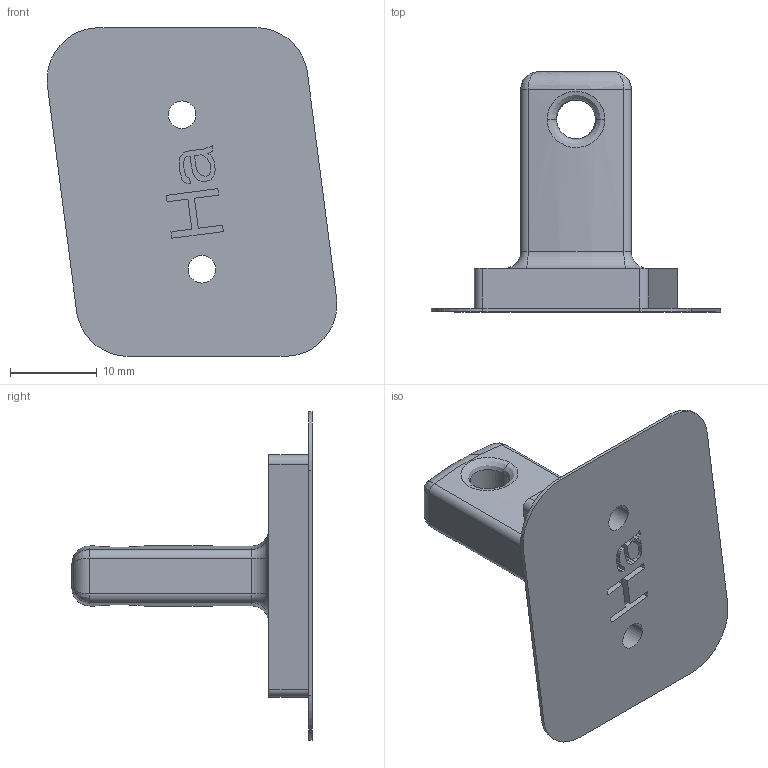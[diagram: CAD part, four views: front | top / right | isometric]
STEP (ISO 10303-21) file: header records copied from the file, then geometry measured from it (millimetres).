
FILE_DESCRIPTION((''),'2;1');
FILE_NAME('0000187322','2024-01-10T08:43:38',('Wyndorps'),(''),'CREO PARAMETRIC BY PTC INC, 2022484','CREO PARAMETRIC BY PTC INC, 2022484','');
FILE_SCHEMA(('CONFIG_CONTROL_DESIGN'));
Length unit declared in the file: millimetre
Products named in the file (1): 0000187322
Bounding box: 33.5 x 27.75 x 38 mm (x, y, z)
Volume: 4694.3 mm3; surface area: 3652.3 mm2
Topology: 1 solids, 1 shells, 125 faces, 326 edges, 208 vertices
Faces by surface type: plane 81, cylinder 24, bspline 8, torus 8, cone 4
Entity records: 4834 total; most frequent: CARTESIAN_POINT 1731, ORIENTED_EDGE 652, DIRECTION 604, EDGE_CURVE 326, VECTOR 250, LINE 250, VERTEX_POINT 208, AXIS2_PLACEMENT_3D 177
